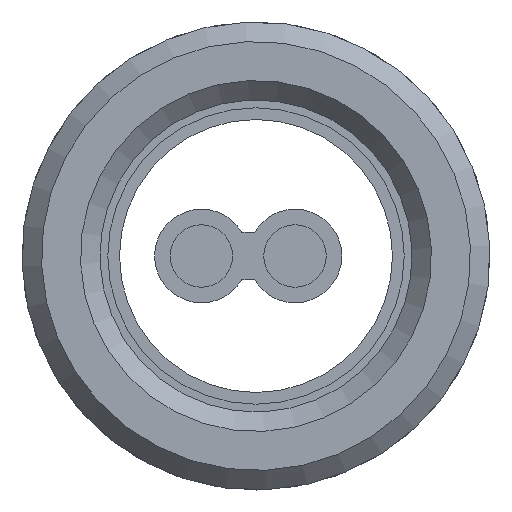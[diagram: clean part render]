
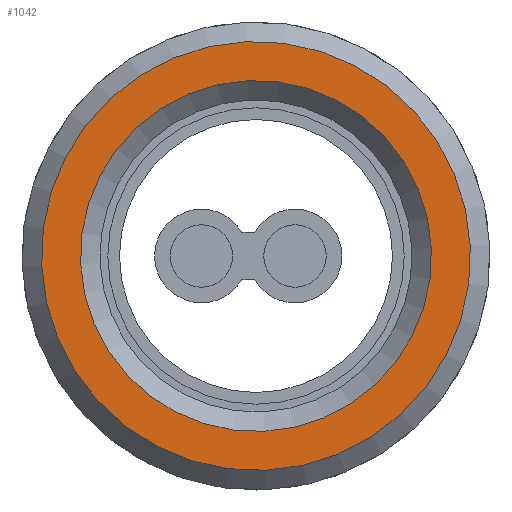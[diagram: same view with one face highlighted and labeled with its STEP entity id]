
A CAD part, left-side view. The second image highlights one B-rep face of the part: STEP entity #1042.
In plain terms, the highlighted planar face has unit normal (-1, 0, 0).
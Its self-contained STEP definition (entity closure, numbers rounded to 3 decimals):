
#93=PLANE('',#1163);
#169=ORIENTED_EDGE('',*,*,#278,.T.);
#170=ORIENTED_EDGE('',*,*,#279,.T.);
#278=EDGE_CURVE('',#347,#347,#412,.F.);
#279=EDGE_CURVE('',#348,#348,#413,.T.);
#347=VERTEX_POINT('',#1596);
#348=VERTEX_POINT('',#1598);
#412=CIRCLE('',#1164,2.75);
#413=CIRCLE('',#1165,2.25);
#502=EDGE_LOOP('',(#169));
#503=EDGE_LOOP('',(#170));
#622=FACE_BOUND('',#502,.T.);
#623=FACE_BOUND('',#503,.T.);
#1042=ADVANCED_FACE('',(#622,#623),#93,.F.);
#1163=AXIS2_PLACEMENT_3D('',#1594,#1360,#1361);
#1164=AXIS2_PLACEMENT_3D('',#1595,#1362,#1363);
#1165=AXIS2_PLACEMENT_3D('',#1597,#1364,#1365);
#1360=DIRECTION('',(1.,0.,0.));
#1361=DIRECTION('',(0.,1.,0.));
#1362=DIRECTION('',(1.,0.,0.));
#1363=DIRECTION('',(0.,1.,0.));
#1364=DIRECTION('',(1.,0.,0.));
#1365=DIRECTION('',(0.,1.,0.));
#1594=CARTESIAN_POINT('',(-1.,0.,0.));
#1595=CARTESIAN_POINT('',(-1.,0.,0.));
#1596=CARTESIAN_POINT('',(-1.,2.75,0.));
#1597=CARTESIAN_POINT('',(-1.,0.,0.));
#1598=CARTESIAN_POINT('',(-1.,2.25,0.));
